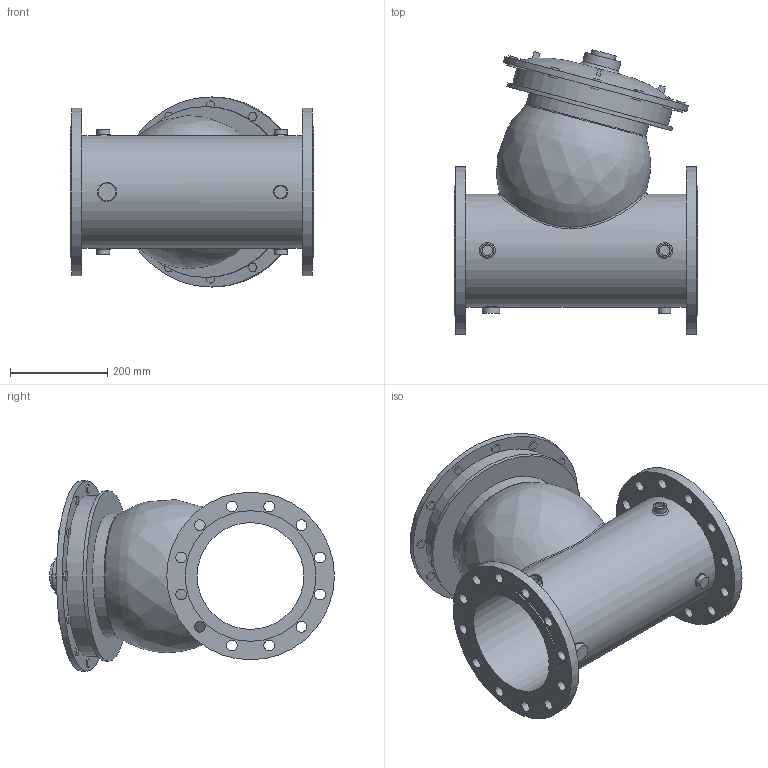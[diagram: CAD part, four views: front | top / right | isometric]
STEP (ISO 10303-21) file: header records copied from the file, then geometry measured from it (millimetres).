
FILE_DESCRIPTION(/* description */ ('VIC FP VALVE PRESSURE RELIEF SERIES 867-7UF (PN16)','CAx-IF Rec.Pracs.---Representation and Presentation of Product Manufacturing Information (PMI)---4.0---2014-10-13'),/* implementation_level */ '2;1');
FILE_NAME(/* name */ 'C:\Series 867-7UF\Series 867-7UF final\pn16\step\Victaulic_FP-Bermad_Valve Pressure Relief_Series 867-7UF (PN16)\Victaulic_FP-Bermad_Valve Pressure Relief_Series 867-7UF (PN16)_8 (200).stp',/* time_stamp */ '2021-09-02T19:17:11+06:00',/* author */ ('kkamble'),/* organization */ ('Victaulic'),/* preprocessor_version */ 'ST-DEVELOPER v17.2',/* originating_system */ 'Autodesk Inventor 2019',/* authorisation */ '');
FILE_SCHEMA (('AP242_MANAGED_MODEL_BASED_3D_ENGINEERING_MIM_LF { 1 0 10303 442 1 1 4 }'));
Length unit declared in the file: inch
Products named in the file (1): 867-7UF-08.0
Bounding box: 500.13 x 584.2 x 390.14 mm (x, y, z)
Volume: 24967181.9 mm3; surface area: 1399654.4 mm2
Topology: 1 solids, 1 shells, 267 faces, 685 edges, 465 vertices
Faces by surface type: plane 210, cylinder 46, bspline 9, torus 2
Full cylindrical faces by diameter (mm): 21.336 x4, 22 x24, 25.4 x1, 26.873 x4, 35.56 x1, 50.8 x1, 76.2 x1, 219.075 x1, 231.775 x1, 254 x1, 268 x2, 330.2 x1, 343.916 x2, 350.52 x1, 390.144 x1
Entity records: 9710 total; most frequent: CARTESIAN_POINT 2633, ORIENTED_EDGE 1382, DIRECTION 1316, EDGE_CURVE 691, LINE 518, VECTOR 518, VERTEX_POINT 471, AXIS2_PLACEMENT_3D 399
